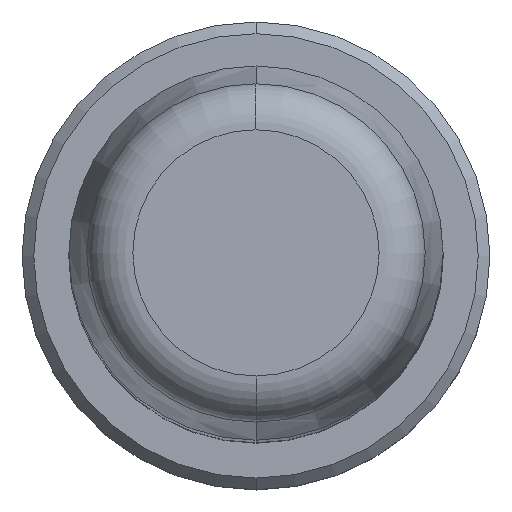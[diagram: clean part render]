
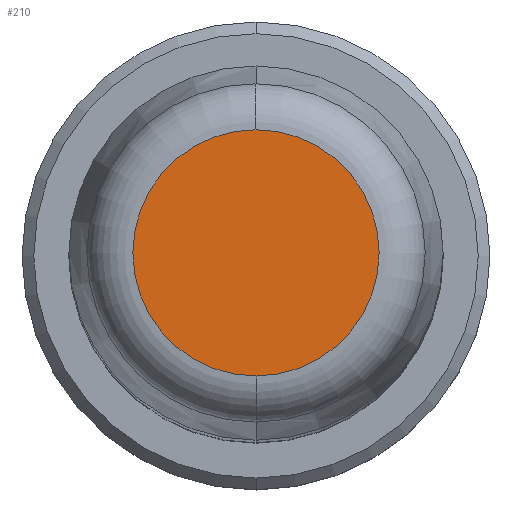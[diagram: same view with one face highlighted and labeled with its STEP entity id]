
A CAD part, top view. The second image highlights one B-rep face of the part: STEP entity #210.
In plain terms, the highlighted planar face has unit normal (0, 0, 1).
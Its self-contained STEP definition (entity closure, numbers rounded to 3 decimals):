
#1=CARTESIAN_POINT('',(0.,0.,80.));
#2=DIRECTION('',(0.,0.,-1.));
#3=DIRECTION('',(0.,-1.,0.));
#4=AXIS2_PLACEMENT_3D('',#1,#2,#3);
#6=CARTESIAN_POINT('',(0.,0.,80.));
#7=DIRECTION('',(0.,0.,-1.));
#8=DIRECTION('',(0.,1.,0.));
#9=AXIS2_PLACEMENT_3D('',#6,#7,#8);
#183=CARTESIAN_POINT('',(0.,-5.264,80.));
#184=CARTESIAN_POINT('',(0.,5.264,80.));
#185=VERTEX_POINT('',#183);
#186=VERTEX_POINT('',#184);
#199=CARTESIAN_POINT('',(0.,0.,80.));
#200=DIRECTION('',(0.,0.,1.));
#201=DIRECTION('',(0.,-1.,0.));
#202=AXIS2_PLACEMENT_3D('',#199,#200,#201);
#203=PLANE('',#202);
#205=ORIENTED_EDGE('',*,*,#204,.T.);
#207=ORIENTED_EDGE('',*,*,#206,.T.);
#208=EDGE_LOOP('',(#205,#207));
#209=FACE_OUTER_BOUND('',#208,.F.);
#210=ADVANCED_FACE('',(#209),#203,.T.);
#5=CIRCLE('',#4,5.264);
#10=CIRCLE('',#9,5.264);
#204=EDGE_CURVE('',#185,#186,#5,.T.);
#206=EDGE_CURVE('',#186,#185,#10,.T.);
